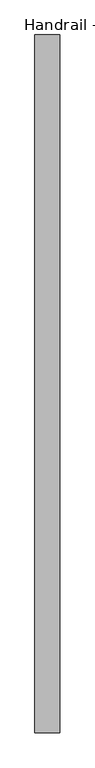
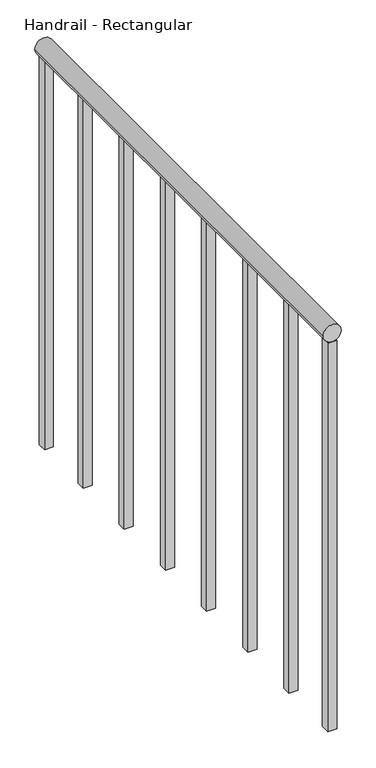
"""IFC4 building model written with IfcOpenShell, lengths in millimetres: railing geometry, Handrail - Rectangular."""

from ifc_helpers import new_model, si_unit, point, frame, frame_2d, origin, place, context, project, spatial, polyline, circle_curve, trimmed, segment, composite_curve, outline, extrude, source, transform, mapped, element, save


def handrail_rectangular_c3ba92fe(model_context):
    return source(origin(), model_context, "Body", "SweptSolid", [
        extrude(outline(composite_curve([segment(trimmed(circle_curve(frame_2d((3943.35, -32167.4839563)), 19.05), [point((3943.35, -32186.5339563))], [point((3943.35, -32148.4339563))], False, "CARTESIAN"), True, "CONTINUOUS"), segment(trimmed(circle_curve(frame_2d((3943.35, -32167.4839563)), 19.05), [point((3943.35, -32148.4339563))], [point((3943.35, -32186.5339563))], False, "CARTESIAN"), True, "CONTINUOUS")], self_intersect=False)), frame((0.0, 10674.8316867, 0.0), z_axis=(0.0, 1.0, 0.0), x_axis=(0.0, 0.0, 1.0)), (0.0, 0.0, 1.0), 1066.8),
        extrude(outline(polyline([(-32157.9589563, 10836.7566867), (-32157.9589563, 10817.7066867), (-32177.0089563, 10817.7066867), (-32177.0089563, 10836.7566867), (-32157.9589563, 10836.7566867)])), frame((0.0, 0.0, 3048.0), z_axis=(0.0, 0.0, 1.0), x_axis=(1.0, 0.0, 0.0)), (0.0, 0.0, 1.0), 876.3),
        extrude(outline(polyline([(-32157.9589563, 10989.1566867), (-32157.9589563, 10970.1066867), (-32177.0089563, 10970.1066867), (-32177.0089563, 10989.1566867), (-32157.9589563, 10989.1566867)])), frame((0.0, 0.0, 3048.0), z_axis=(0.0, 0.0, 1.0), x_axis=(1.0, 0.0, 0.0)), (0.0, 0.0, 1.0), 876.3),
        extrude(outline(polyline([(-32157.9589563, 11141.5566867), (-32157.9589563, 11122.5066867), (-32177.0089563, 11122.5066867), (-32177.0089563, 11141.5566867), (-32157.9589563, 11141.5566867)])), frame((0.0, 0.0, 3048.0), z_axis=(0.0, 0.0, 1.0), x_axis=(1.0, 0.0, 0.0)), (0.0, 0.0, 1.0), 876.3),
        extrude(outline(polyline([(-32157.9589563, 11293.9566867), (-32157.9589563, 11274.9066867), (-32177.0089563, 11274.9066867), (-32177.0089563, 11293.9566867), (-32157.9589563, 11293.9566867)])), frame((0.0, 0.0, 3048.0), z_axis=(0.0, 0.0, 1.0), x_axis=(1.0, 0.0, 0.0)), (0.0, 0.0, 1.0), 876.3),
        extrude(outline(polyline([(-32157.9589563, 11446.3566867), (-32157.9589563, 11427.3066867), (-32177.0089563, 11427.3066867), (-32177.0089563, 11446.3566867), (-32157.9589563, 11446.3566867)])), frame((0.0, 0.0, 3048.0), z_axis=(0.0, 0.0, 1.0), x_axis=(1.0, 0.0, 0.0)), (0.0, 0.0, 1.0), 876.3),
        extrude(outline(polyline([(-32157.9589563, 11598.7566867), (-32157.9589563, 11579.7066867), (-32177.0089563, 11579.7066867), (-32177.0089563, 11598.7566867), (-32157.9589563, 11598.7566867)])), frame((0.0, 0.0, 3048.0), z_axis=(0.0, 0.0, 1.0), x_axis=(1.0, 0.0, 0.0)), (0.0, 0.0, 1.0), 876.3),
        extrude(outline(polyline([(-32157.9589563, 10693.8816867), (-32157.9589563, 10674.8316867), (-32177.0089563, 10674.8316867), (-32177.0089563, 10693.8816867), (-32157.9589563, 10693.8816867)])), frame((0.0, 0.0, 3048.0), z_axis=(0.0, 0.0, 1.0), x_axis=(1.0, 0.0, 0.0)), (0.0, 0.0, 1.0), 876.3),
        extrude(outline(polyline([(-32157.9589563, 11741.6316867), (-32157.9589563, 11722.5816867), (-32177.0089563, 11722.5816867), (-32177.0089563, 11741.6316867), (-32157.9589563, 11741.6316867)])), frame((0.0, 0.0, 3048.0), z_axis=(0.0, 0.0, 1.0), x_axis=(1.0, 0.0, 0.0)), (0.0, 0.0, 1.0), 876.3),
    ])


if __name__ == "__main__":
    model = new_model("IFC4")
    model_context = context("Model", 3, world=origin())
    ifc_project = project(units=[si_unit("LENGTHUNIT", "METRE", prefix="MILLI")], contexts=[model_context])
    site = spatial("IfcSite", under=ifc_project)
    building = spatial("IfcBuilding", under=site)
    placement = place(None, origin())
    handrail_rectangular_shape = handrail_rectangular_c3ba92fe(model_context)
    element("IfcRailing", 1, ObjectType="Handrail - Rectangular", at=placement, inside=building, context=model_context, shape_type="MappedRepresentation", body=[
        mapped(handrail_rectangular_shape, transform((0.0, 0.0, 0.0), x_axis=(1.0, 0.0, 0.0), y_axis=(0.0, 1.0, 0.0), z_axis=(0.0, 0.0, 1.0))),
    ])
    save(model, "model.ifc")
